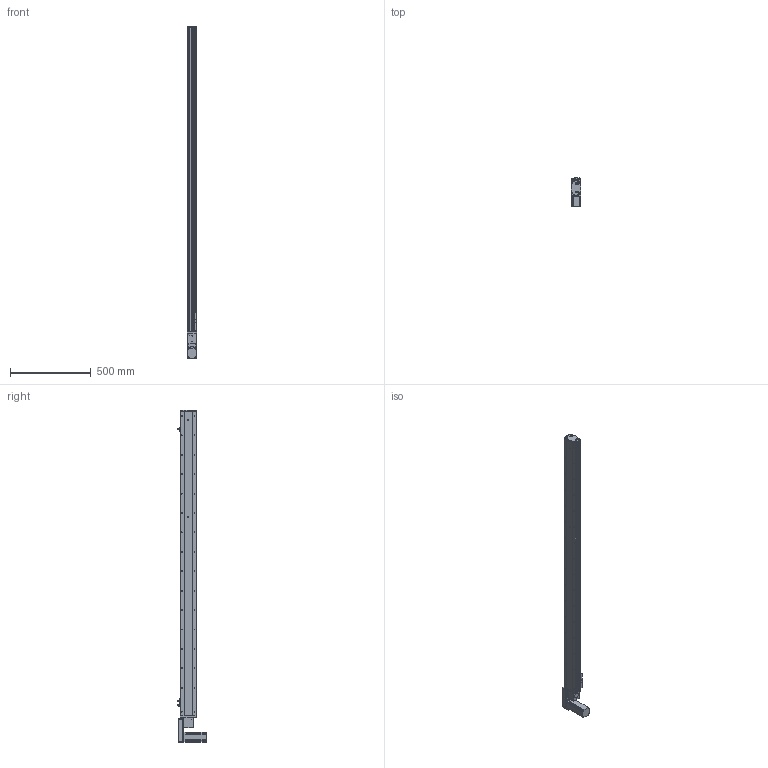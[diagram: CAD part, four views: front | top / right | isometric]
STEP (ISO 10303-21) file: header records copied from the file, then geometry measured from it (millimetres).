
FILE_DESCRIPTION (( 'STEP AP214' ), '1' );
FILE_NAME ('KSD100B-S1700-MLB-CM.STEP', '2019-08-31T02:29:06', ( '微软用户' ), ( '微软中国' ), 'SwSTEP 2.0', 'SolidWorks 2014', '' );
FILE_SCHEMA (( 'AUTOMOTIVE_DESIGN' ));
Length unit declared in the file: millimetre
Products named in the file (12): U倰嫖萇EEㄜSX672; 覜茼え100遵圉猾敕; 100宽防尘板1700行程-同步带; 100宽马达安装板同步带左; 100宽同步带安装板半封闭; 100宽马达安装板同步带; 100遵傷啣肮祭湍; 100宽底板半封闭同步带1700行程; KSD100B-S1700-MLB-CM; 悵誘欶奻狟殏; 100宽马达安装板连板上下折丝杆同步带; 台达ECMA－C20604AS伺服电机
Assembly tree (13 placements, depth 2):
  KSD100B-S1700-MLB-CM
    100宽底板半封闭同步带1700行程
    100遵傷啣肮祭湍
    100宽马达安装板同步带
    100宽同步带安装板半封闭
    100宽马达安装板同步带左
    100宽防尘板1700行程-同步带
    覜茼え100遵圉猾敕
    U倰嫖萇EEㄜSX672  x3
    台达ECMA－C20604AS伺服电机
    100宽马达安装板连板上下折丝杆同步带
    悵誘欶奻狟殏
Bounding box: 61 x 174.7 x 2053 mm (x, y, z)
Volume: 4100629.1 mm3; surface area: 1401818.5 mm2
Topology: 14 solids, 14 shells, 1673 faces, 4744 edges, 2987 vertices
Faces by surface type: cylinder 871, plane 615, cone 187
Entity records: 61357 total; most frequent: CARTESIAN_POINT 13092, DIRECTION 8284, ORIENTED_EDGE 8020, EDGE_CURVE 4010, AXIS2_PLACEMENT_3D 3053, VERTEX_POINT 2611, LINE 2178, VECTOR 2178
